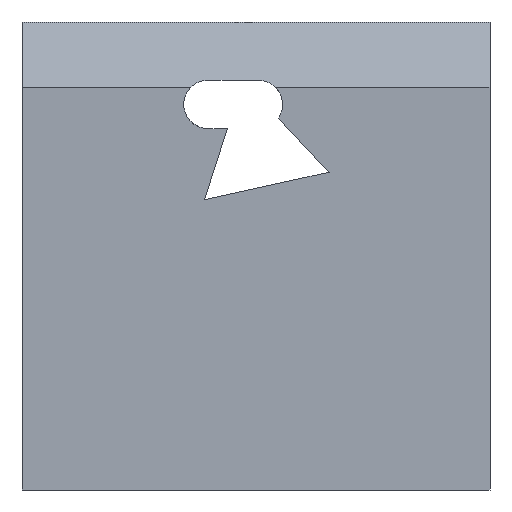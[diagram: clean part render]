
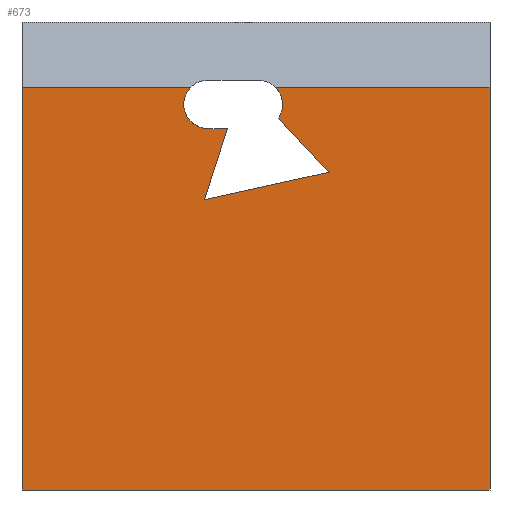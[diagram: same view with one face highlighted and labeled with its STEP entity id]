
A CAD part, left-side view. The second image highlights one B-rep face of the part: STEP entity #673.
In plain terms, the highlighted planar face has unit normal (-1, 0, 0).
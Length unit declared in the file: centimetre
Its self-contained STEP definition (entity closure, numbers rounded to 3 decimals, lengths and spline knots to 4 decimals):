
#11 = LINE ( 'NONE', #321, #364 ) ;
#28 = LINE ( 'NONE', #334, #458 ) ;
#30 = CARTESIAN_POINT ( 'NONE',  ( 0., 602.9196, 772.2239 ) ) ;
#50 = ORIENTED_EDGE ( 'NONE', *, *, #233, .T. ) ;
#58 = EDGE_CURVE ( 'NONE', #540, #478, #559, .T. ) ;
#64 = VERTEX_POINT ( 'NONE', #194 ) ;
#79 = LINE ( 'NONE', #666, #116 ) ;
#99 = CARTESIAN_POINT ( 'NONE',  ( 0., 1000., 1000. ) ) ;
#116 = VECTOR ( 'NONE', #188, 100. ) ;
#129 = EDGE_CURVE ( 'NONE', #179, #636, #677, .T. ) ;
#134 = CARTESIAN_POINT ( 'NONE',  ( 0., 0., 0. ) ) ;
#139 = CARTESIAN_POINT ( 'NONE',  ( 0., 0., 1000. ) ) ;
#146 = CARTESIAN_POINT ( 'NONE',  ( 0., 494.754, 772.2239 ) ) ;
#150 = CARTESIAN_POINT ( 'NONE',  ( 0., 602.9196, 823.8379 ) ) ;
#155 = PLANE ( 'NONE',  #553 ) ;
#156 = CIRCLE ( 'NONE', #200, 51.6139 ) ;
#160 = DIRECTION ( 'NONE',  ( 0., 1., 0. ) ) ;
#172 = ORIENTED_EDGE ( 'NONE', *, *, #129, .F. ) ;
#174 = LINE ( 'NONE', #647, #549 ) ;
#179 = VERTEX_POINT ( 'NONE', #30 ) ;
#188 = DIRECTION ( 'NONE',  ( 0., -0.976, 0.216 ) ) ;
#194 = CARTESIAN_POINT ( 'NONE',  ( 0., 458.2746, 860.3515 ) ) ;
#195 = CARTESIAN_POINT ( 'NONE',  ( 0., 452.147, 794.7065 ) ) ;
#200 = AXIS2_PLACEMENT_3D ( 'NONE', #150, #387, #327 ) ;
#207 = ORIENTED_EDGE ( 'NONE', *, *, #58, .F. ) ;
#211 = CIRCLE ( 'NONE', #225, 51.6139 ) ;
#225 = AXIS2_PLACEMENT_3D ( 'NONE', #323, #579, #683 ) ;
#233 = EDGE_CURVE ( 'NONE', #355, #630, #397, .T. ) ;
#250 = EDGE_CURVE ( 'NONE', #630, #478, #623, .T. ) ;
#264 = VECTOR ( 'NONE', #723, 100. ) ;
#290 = CARTESIAN_POINT ( 'NONE',  ( 0., 639.3991, 860.3515 ) ) ;
#296 = CARTESIAN_POINT ( 'NONE',  ( 0., 609.9398, 620.3599 ) ) ;
#308 = VERTEX_POINT ( 'NONE', #290 ) ;
#321 = CARTESIAN_POINT ( 'NONE',  ( 0., 527.8499, 875.4518 ) ) ;
#323 = CARTESIAN_POINT ( 'NONE',  ( 0., 494.754, 823.8379 ) ) ;
#327 = DIRECTION ( 'NONE',  ( 0., 0., -1. ) ) ;
#330 = CARTESIAN_POINT ( 'NONE',  ( 0., 1000., 860.3515 ) ) ;
#334 = CARTESIAN_POINT ( 'NONE',  ( 0., 343.851, 679.1971 ) ) ;
#341 = CARTESIAN_POINT ( 'NONE',  ( 0., 1000., 0. ) ) ;
#343 = EDGE_CURVE ( 'NONE', #540, #64, #174, .T. ) ;
#350 = ORIENTED_EDGE ( 'NONE', *, *, #510, .F. ) ;
#355 = VERTEX_POINT ( 'NONE', #651 ) ;
#364 = VECTOR ( 'NONE', #367, 100. ) ;
#367 = DIRECTION ( 'NONE',  ( 0., 0.306, -0.952 ) ) ;
#381 = DIRECTION ( 'NONE',  ( 0., -1., 0. ) ) ;
#386 = ORIENTED_EDGE ( 'NONE', *, *, #250, .T. ) ;
#387 = DIRECTION ( 'NONE',  ( -1., 0., 0. ) ) ;
#397 = LINE ( 'NONE', #99, #428 ) ;
#402 = ORIENTED_EDGE ( 'NONE', *, *, #665, .F. ) ;
#406 = VERTEX_POINT ( 'NONE', #485 ) ;
#409 = VERTEX_POINT ( 'NONE', #296 ) ;
#428 = VECTOR ( 'NONE', #740, 100. ) ;
#433 = CARTESIAN_POINT ( 'NONE',  ( 0., 0., 860.3515 ) ) ;
#445 = DIRECTION ( 'NONE',  ( 1., 0., 0. ) ) ;
#458 = VECTOR ( 'NONE', #568, 100. ) ;
#476 = EDGE_CURVE ( 'NONE', #409, #406, #79, .T. ) ;
#478 = VERTEX_POINT ( 'NONE', #134 ) ;
#485 = CARTESIAN_POINT ( 'NONE',  ( 0., 343.851, 679.1971 ) ) ;
#510 = EDGE_CURVE ( 'NONE', #636, #409, #11, .T. ) ;
#517 = FACE_OUTER_BOUND ( 'NONE', #526, .T. ) ;
#526 = EDGE_LOOP ( 'NONE', ( #656, #350, #172, #641, #660, #50, #386, #207, #682, #402, #593 ) ) ;
#531 = DIRECTION ( 'NONE',  ( 0., 1., 0. ) ) ;
#540 = VERTEX_POINT ( 'NONE', #433 ) ;
#549 = VECTOR ( 'NONE', #531, 100. ) ;
#553 = AXIS2_PLACEMENT_3D ( 'NONE', #619, #445, #742 ) ;
#559 = LINE ( 'NONE', #139, #264 ) ;
#568 = DIRECTION ( 'NONE',  ( 0., 0.684, 0.73 ) ) ;
#571 = CARTESIAN_POINT ( 'NONE',  ( 0., 561.0692, 772.2239 ) ) ;
#576 = VERTEX_POINT ( 'NONE', #195 ) ;
#579 = DIRECTION ( 'NONE',  ( -1., 0., 0. ) ) ;
#593 = ORIENTED_EDGE ( 'NONE', *, *, #643, .F. ) ;
#613 = EDGE_CURVE ( 'NONE', #308, #179, #156, .T. ) ;
#619 = CARTESIAN_POINT ( 'NONE',  ( 0., 1000., 1000. ) ) ;
#623 = LINE ( 'NONE', #629, #649 ) ;
#629 = CARTESIAN_POINT ( 'NONE',  ( 0., 1000., 0. ) ) ;
#630 = VERTEX_POINT ( 'NONE', #341 ) ;
#635 = VECTOR ( 'NONE', #381, 100. ) ;
#636 = VERTEX_POINT ( 'NONE', #571 ) ;
#641 = ORIENTED_EDGE ( 'NONE', *, *, #613, .F. ) ;
#643 = EDGE_CURVE ( 'NONE', #406, #576, #28, .T. ) ;
#647 = CARTESIAN_POINT ( 'NONE',  ( 0., 1000., 860.3515 ) ) ;
#649 = VECTOR ( 'NONE', #684, 100. ) ;
#651 = CARTESIAN_POINT ( 'NONE',  ( 0., 1000., 860.3515 ) ) ;
#656 = ORIENTED_EDGE ( 'NONE', *, *, #476, .F. ) ;
#660 = ORIENTED_EDGE ( 'NONE', *, *, #739, .T. ) ;
#665 = EDGE_CURVE ( 'NONE', #576, #64, #211, .T. ) ;
#666 = CARTESIAN_POINT ( 'NONE',  ( 0., 609.9398, 620.3599 ) ) ;
#673 = ADVANCED_FACE ( 'NONE', ( #517 ), #155, .F. ) ;
#677 = LINE ( 'NONE', #146, #635 ) ;
#682 = ORIENTED_EDGE ( 'NONE', *, *, #343, .T. ) ;
#683 = DIRECTION ( 'NONE',  ( 0., 0., -1. ) ) ;
#684 = DIRECTION ( 'NONE',  ( 0., -1., 0. ) ) ;
#688 = LINE ( 'NONE', #330, #730 ) ;
#723 = DIRECTION ( 'NONE',  ( 0., 0., -1. ) ) ;
#730 = VECTOR ( 'NONE', #160, 100. ) ;
#739 = EDGE_CURVE ( 'NONE', #308, #355, #688, .T. ) ;
#740 = DIRECTION ( 'NONE',  ( 0., 0., -1. ) ) ;
#742 = DIRECTION ( 'NONE',  ( 0., 0., -1. ) ) ;
